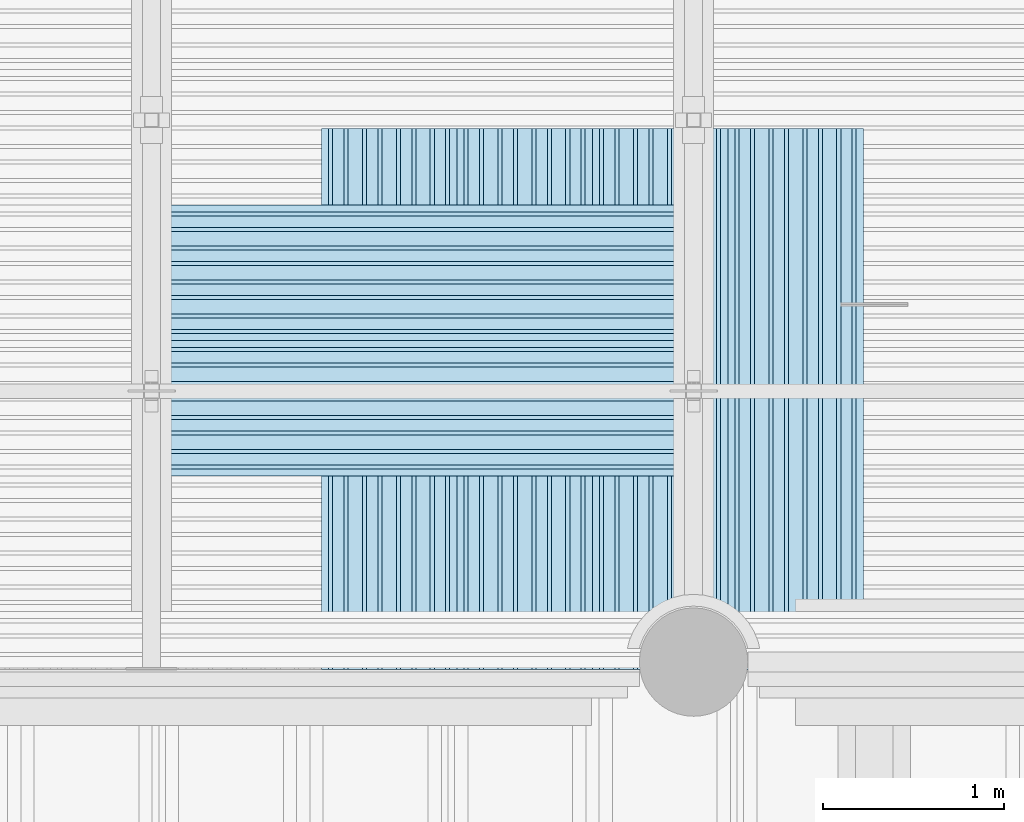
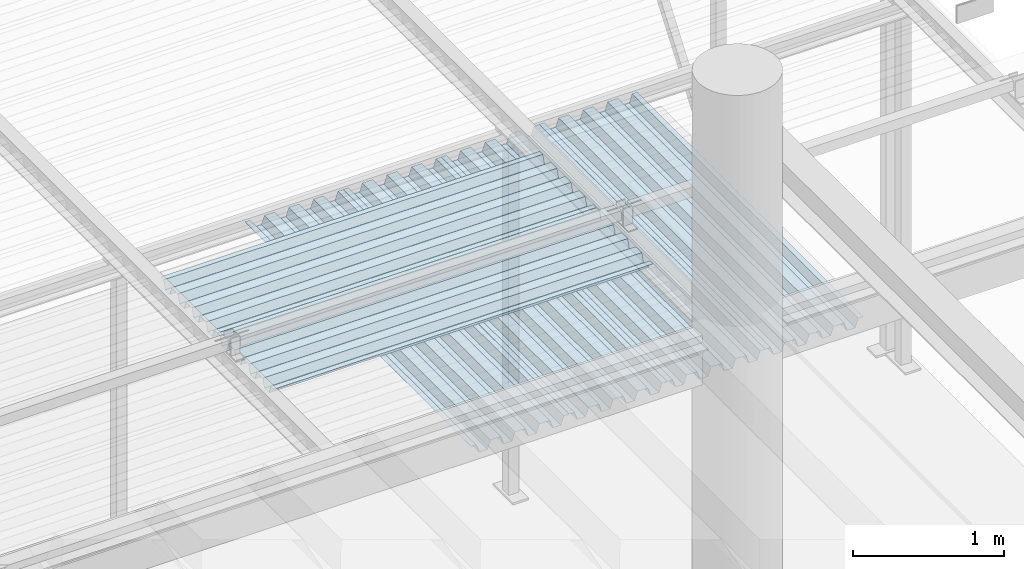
# One storey, part 71 of 98: 6 slabs.
"""IFC2X3 building model written with IfcOpenShell, lengths in millimetres."""

import ifcopenshell
import ifcopenshell.guid

model = None  # the IFC model being written
_history = None  # IfcOwnerHistory: only IFC2X3 demands one
_inside = {}  # id of a spatial element -> (the spatial element, [elements in it])
_under = {}  # id of a project, library or spatial element -> (it, [spatial elements below it])
_declared = {}  # id of a project -> (the project, [libraries it declares])
_typed = {}  # id of a type object -> (the type object, [elements of that type])
_made_of = {}  # id of a material, layer set ... -> (it, [elements and type objects made of it])


def new_model(schema):
    """Start an empty IFC model of exactly this schema.

    Asked for "IFC4X3", IfcOpenShell would pick the latest addendum, in which some entities
    have other attributes; the version numbers below select the first issue.
    IFC2X3 requires an IfcOwnerHistory on every rooted entity: one is made here for all.
    """
    global model, _history
    if schema == "IFC4X3":
        model = ifcopenshell.file(schema_version=(4, 3, 0, 0))
    else:
        model = ifcopenshell.file(schema=schema)
    _inside.clear()
    _under.clear()
    _declared.clear()
    _typed.clear()
    _made_of.clear()
    _history = None
    if model.schema == "IFC2X3":
        org = make("IfcOrganization", Name="unknown")
        user = make(
            "IfcPersonAndOrganization",
            ThePerson=make("IfcPerson", FamilyName="unknown"),
            TheOrganization=org,
        )
        app = make(
            "IfcApplication",
            ApplicationDeveloper=org,
            Version="unknown",
            ApplicationFullName="unknown",
            ApplicationIdentifier="unknown",
        )
        _history = make(
            "IfcOwnerHistory",
            OwningUser=user,
            OwningApplication=app,
            ChangeAction="ADDED",
            CreationDate=0,
        )
    return model


def make(cls, **values):
    """One entity of the class cls with the attributes given. An attribute that is None is left unset."""
    return model.create_entity(
        cls, **{name: value for name, value in values.items() if value is not None}
    )


def entity(cls, *values):
    """Any entity or typed value of the class cls, its attributes in the order of the schema. None: left unset."""
    e = model.create_entity(cls)
    for i, value in enumerate(values):
        if value is not None:
            e[i] = value
    return e


def rooted(cls, **values):
    """An entity with a GlobalId (a new one), such as an element, a storey or a relation."""
    return make(cls, GlobalId=ifcopenshell.guid.new(), OwnerHistory=_history, **values)


def si_unit(unit_type, name, prefix=None):
    """IfcSIUnit, for example si_unit("LENGTHUNIT", "METRE", prefix="MILLI")."""
    return make("IfcSIUnit", UnitType=unit_type, Prefix=prefix, Name=name)


def converted_unit(unit_type, name, factor, base, dimensions=None, offset=None):
    """IfcConversionBasedUnit, such as the inch: factor (a typed value) times the base unit."""
    return make(
        "IfcConversionBasedUnit"
        if offset is None
        else "IfcConversionBasedUnitWithOffset",
        ConversionOffset=offset,
        Dimensions=None
        if dimensions is None
        else entity("IfcDimensionalExponents", *dimensions),
        UnitType=unit_type,
        Name=name,
        ConversionFactor=make(
            "IfcMeasureWithUnit", ValueComponent=factor, UnitComponent=base
        ),
    )


def derived_unit(unit_type, elements):
    """IfcDerivedUnit: a product of units, each with its exponent."""
    return make(
        "IfcDerivedUnit",
        Elements=[
            make("IfcDerivedUnitElement", Unit=unit, Exponent=power)
            for unit, power in elements
        ],
        UnitType=unit_type,
    )


def assignment(units):
    """IfcUnitAssignment: the units of a project."""
    return None if units is None else make("IfcUnitAssignment", Units=units)


def point(xyz):
    """IfcCartesianPoint."""
    return None if xyz is None else make("IfcCartesianPoint", Coordinates=xyz)


def direction(xyz):
    """IfcDirection."""
    return None if xyz is None else make("IfcDirection", DirectionRatios=xyz)


def frame(location, z_axis=None, x_axis=None):
    """IfcAxis2Placement3D, a coordinate frame: its origin and axes. An axis left out is left unset."""
    return make(
        "IfcAxis2Placement3D",
        Location=point(location),
        Axis=direction(z_axis),
        RefDirection=direction(x_axis),
    )


def origin_with_axes():
    """The frame at (0, 0, 0) with the z axis (0, 0, 1) and the x axis (1, 0, 0) written out."""
    return frame((0.0, 0.0, 0.0), z_axis=(0.0, 0.0, 1.0), x_axis=(1.0, 0.0, 0.0))


def place(relative_to, where):
    """IfcLocalPlacement: puts the frame where relative to a parent placement (None: the world)."""
    return make(
        "IfcLocalPlacement", PlacementRelTo=relative_to, RelativePlacement=where
    )


def context(
    kind, dimensions, precision=None, world=None, true_north=None, identifier=None
):
    """IfcGeometricRepresentationContext, for example the 3D "Model" context."""
    return make(
        "IfcGeometricRepresentationContext",
        ContextIdentifier=identifier,
        ContextType=kind,
        CoordinateSpaceDimension=dimensions,
        Precision=precision,
        WorldCoordinateSystem=world,
        TrueNorth=true_north,
    )


def subcontext(parent, identifier, kind, view, scale=None):
    """IfcGeometricRepresentationSubContext, for example "Body" below "Model"."""
    return make(
        "IfcGeometricRepresentationSubContext",
        ContextIdentifier=identifier,
        ContextType=kind,
        ParentContext=parent,
        TargetScale=scale,
        TargetView=view,
    )


def project(units=None, contexts=None):
    """IfcProject with its units and contexts."""
    return rooted(
        "IfcProject",
        Name="project",
        RepresentationContexts=contexts,
        UnitsInContext=assignment(units),
    )


def spatial(cls, under=None, at=None, **own):
    """A site, building, storey or space (cls), placed at a placement, below another one or the project."""
    s = rooted(cls, ObjectPlacement=at, **own)
    if under is not None:
        _under.setdefault(under.id(), (under, []))[1].append(s)
    return s


def faces_of(points, faces, orient=None, outer=None):
    """IfcFace entities. A face is a list of loops; a loop is a list of indices into points, from 0.

    orient and outer hold one flag for each loop. By default every Orientation is true, the
    first loop of a face is its IfcFaceOuterBound and the others are IfcFaceBound.
    """
    made = []
    for i, loops in enumerate(faces):
        bounds = []
        for j, loop in enumerate(loops):
            is_outer = j == 0 if outer is None else outer[i][j]
            bounds.append(
                make(
                    "IfcFaceOuterBound" if is_outer else "IfcFaceBound",
                    Bound=make("IfcPolyLoop", Polygon=[points[k] for k in loop]),
                    Orientation=True if orient is None else orient[i][j],
                )
            )
        made.append(make("IfcFace", Bounds=bounds))
    return made


def faceted_brep(points, faces, orient=None, outer=None, voids=None):
    """IfcFacetedBrep: a solid bounded by flat faces; with voids (closed shells), ...WithVoids."""
    shared = [point(p) for p in points]
    hull = make("IfcClosedShell", CfsFaces=faces_of(shared, faces, orient, outer))
    if voids is None:
        return make("IfcFacetedBrep", Outer=hull)
    return make(
        "IfcFacetedBrepWithVoids",
        Outer=hull,
        Voids=[
            make(cls, CfsFaces=faces_of(shared, fs, o, b)) for cls, fs, o, b in voids
        ],
    )


def shape(context_of_items, identifier, shape_type, items):
    """IfcShapeRepresentation: the items that make up one representation, for example the "Body"."""
    return make(
        "IfcShapeRepresentation",
        ContextOfItems=context_of_items,
        RepresentationIdentifier=identifier,
        RepresentationType=shape_type,
        Items=items,
    )


def material(Name=None, Category=None):
    """IfcMaterial."""
    return make("IfcMaterial", Name=Name, Category=Category)


def made_of(thing, what):
    """Note that an element or type object is made of a material, layer set ...; save() writes the relation."""
    if what is not None:
        _made_of.setdefault(what.id(), (what, []))[1].append(thing)
    return thing


def type_object(cls, material=None, **own):
    """A type object (cls), such as IfcWallType, which elements share."""
    return made_of(rooted(cls, **own), material)


def element(
    cls,
    number,
    at=None,
    inside=None,
    cuts=None,
    type_object=None,
    material=None,
    context=None,
    identifier="Body",
    shape_type=None,
    held_by="IfcProductDefinitionShape",
    body=None,
    shapes=None,
    **own,
):
    """One element of the class cls, such as IfcWall. Its Tag is "e" and its number.

    at: its placement. inside: the storey or other place that contains it. cuts: it is an
    opening in that element (IfcRelVoidsElement). A single representation is given by context,
    identifier, shape_type and body (its items); several are given by shapes. held_by: the class
    of the entity that holds the representations. save() writes the other relations.
    """
    e = rooted(cls, Tag="e%d" % number, ObjectPlacement=at, **own)
    if body is not None:
        shapes = [shape(context, identifier, shape_type, body)]
    if shapes is not None:
        e.Representation = make(held_by, Representations=shapes)
    if inside is not None:
        _inside.setdefault(inside.id(), (inside, []))[1].append(e)
    if cuts is not None:
        rooted(
            "IfcRelVoidsElement", RelatingBuildingElement=cuts, RelatedOpeningElement=e
        )
    if type_object is not None:
        _typed.setdefault(type_object.id(), (type_object, []))[1].append(e)
    return made_of(e, material)


def aggregate(whole, parts):
    """IfcRelAggregates: a whole, such as a stair, and the parts it consists of."""
    return rooted("IfcRelAggregates", RelatingObject=whole, RelatedObjects=parts)


def save(model, path):
    """Write the relations noted so far, then the file.

    IfcRelAggregates (storeys below a building ...), IfcRelContainedInSpatialStructure (elements
    in a storey), IfcRelDefinesByType, IfcRelAssociatesMaterial and IfcRelDeclares: one each for
    every whole, place, type object, material and project.
    """
    for whole, parts in _under.values():
        aggregate(whole, parts)
    for where, things in _inside.values():
        rooted(
            "IfcRelContainedInSpatialStructure",
            RelatedElements=things,
            RelatingStructure=where,
        )
    for kind, things in _typed.values():
        rooted("IfcRelDefinesByType", RelatedObjects=things, RelatingType=kind)
    for what, things in _made_of.values():
        rooted("IfcRelAssociatesMaterial", RelatedObjects=things, RelatingMaterial=what)
    for by, libraries in _declared.values():
        rooted("IfcRelDeclares", RelatingContext=by, RelatedDefinitions=libraries)
    model.write(path)


model = new_model("IFC2X3")

# Units and contexts
model_context = context("Model", 3, precision=0.01, world=frame((0.0, 4.29681676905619e-09, 0.0)), true_north=direction((4.01073788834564e-13, 1.0)))
plan_context = context("Plan", 3, precision=0.01, world=frame((0.0, 4.29681676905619e-09, 0.0)), true_north=direction((4.01073788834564e-13, 1.0)))
body_context = subcontext(model_context, "Body", "Model", "MODEL_VIEW")
ifc_project = project(units=[converted_unit("PLANEANGLEUNIT", "DEGREE", entity("IfcPositiveLengthMeasure", 0.0174532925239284), si_unit("PLANEANGLEUNIT", "RADIAN"), dimensions=[0, 0, 0, 0, 0, 0, 0]), si_unit("AREAUNIT", "SQUARE_METRE"), si_unit("LENGTHUNIT", "METRE", prefix="MILLI"), si_unit("MASSUNIT", "GRAM", prefix="KILO"), si_unit("POWERUNIT", "WATT"), si_unit("PRESSUREUNIT", "PASCAL"), si_unit("FORCEUNIT", "NEWTON", prefix="KILO"), si_unit("ELECTRICCURRENTUNIT", "AMPERE"), si_unit("THERMODYNAMICTEMPERATUREUNIT", "DEGREE_CELSIUS"), si_unit("TIMEUNIT", "SECOND"), si_unit("VOLUMEUNIT", "CUBIC_METRE"), derived_unit("LINEARVELOCITYUNIT", [(si_unit("LENGTHUNIT", "METRE"), 1), (si_unit("TIMEUNIT", "SECOND"), -1)]), derived_unit("VOLUMETRICFLOWRATEUNIT", [(si_unit("VOLUMEUNIT", "CUBIC_METRE"), 1), (si_unit("TIMEUNIT", "SECOND"), -1)]), derived_unit("THERMALTRANSMITTANCEUNIT", [(si_unit("POWERUNIT", "WATT"), 1), (si_unit("THERMODYNAMICTEMPERATUREUNIT", "KELVIN"), -1), (si_unit("AREAUNIT", "SQUARE_METRE"), -1)])], contexts=[model_context, plan_context])

# Site, building, storey
site_placement = place(None, frame((0.0, -4.29681676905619e-09, 0.0), z_axis=(0.0, 0.0, 1.0), x_axis=(1.0, 0.0, 0.0)))
site = spatial("IfcSite", under=ifc_project, at=site_placement, Name="Gardermoen", CompositionType="ELEMENT")
building_placement = place(site_placement, frame((0.0, 4.29681676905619e-09, 0.0), z_axis=(0.0, 0.0, 1.0), x_axis=(1.0, 0.0, 0.0)))
building = spatial("IfcBuilding", under=site, at=building_placement, Name="TS", CompositionType="ELEMENT")
storey_placement = place(building_placement, origin_with_axes())
storey = spatial("IfcBuildingStorey", under=building, at=storey_placement, Name="D", CompositionType="ELEMENT", Elevation=0.0)

# Slabs
ifc_material = material(Name="STEEL/S355")
slab_type = type_object("IfcSlabType", Name="PLANJA70", PredefinedType="NOTDEFINED")
slab_1_placement = place(storey_placement, frame((528950.000000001, 415904.996695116, 206958.849718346), z_axis=(0.0, 0.0, 1.0), x_axis=(-0.999999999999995, -9.99999902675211e-08, 0.0)))
element("IfcSlab", 1, at=slab_1_placement, inside=storey, type_object=slab_type, material=ifc_material, Name="STÅLTAK", ObjectType="PLANJA70", PredefinedType="FLOOR", context=body_context, shape_type="Brep", body=[
    faceted_brep([(0.0, 375.0, 34.1500015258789), (0.0, 335.299987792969, 34.1500015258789), (2900.00079747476, 335.299987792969, 34.1500015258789), (2900.00079747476, 375.0, 34.1500015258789), (0.0, 313.010681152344, -32.1500015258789), (2900.00079747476, 313.010681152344, -32.1500015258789), (0.0, 249.489303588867, -32.1500015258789), (2900.00079747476, 249.489303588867, -32.1500015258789), (0.0, 227.199996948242, 34.1500015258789), (2900.00079747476, 227.199996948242, 34.1500015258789), (0.0, 147.800003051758, 34.1500015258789), (2900.00079747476, 147.800003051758, 34.1500015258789), (0.0, 125.280120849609, -33.1500015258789), (2900.00079747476, 125.280120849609, -33.1500015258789), (0.0, 62.2198791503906, -33.1500015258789), (2900.00079747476, 62.2198791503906, -33.1500015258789), (0.0, 39.7000007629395, 34.1500015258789), (2900.00079747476, 39.7000007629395, 34.1500015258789), (0.0, -39.7000007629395, 34.1500015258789), (2900.00079747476, -39.7000007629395, 34.1500015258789), (0.0, -62.2198791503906, -33.1500015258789), (2900.00079747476, -62.2198791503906, -33.1500015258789), (0.0, -125.280120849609, -33.1500015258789), (2900.00079747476, -125.280120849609, -33.1500015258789), (0.0, -147.800003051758, 34.1500015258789), (2900.00079747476, -147.800003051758, 34.1500015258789), (0.0, -227.199996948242, 34.1500015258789), (2900.00079747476, -227.199996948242, 34.1500015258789), (0.0, -249.719879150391, -33.1500015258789), (2900.00079747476, -249.719879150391, -33.1500015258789), (0.0, -312.781188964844, -33.1500015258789), (2900.00079747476, -312.781188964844, -33.1500015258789), (0.0, -335.070495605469, 33.1500015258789), (2900.00079747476, -335.070495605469, 33.1500015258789), (0.0, -375.0, 33.1500015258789), (2900.00079747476, -375.0, 33.1500015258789), (0.0, -375.0, 32.1500015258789), (2900.00079747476, -375.0, 32.1500015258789), (0.0, -335.789306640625, 32.1500015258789), (2900.00079747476, -335.789306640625, 32.1500015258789), (0.0, -313.5, -34.1500015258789), (2900.00079747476, -313.5, -34.1500015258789), (0.0, -249.0, -34.1500015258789), (2900.00079747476, -249.0, -34.1500015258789), (0.0, -226.480117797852, 33.1500015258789), (2900.00079747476, -226.480117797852, 33.1500015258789), (0.0, -148.519882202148, 33.1500015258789), (2900.00079747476, -148.519882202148, 33.1500015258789), (0.0, -126.0, -34.1500015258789), (2900.00079747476, -126.0, -34.1500015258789), (0.0, -61.5, -34.1500015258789), (2900.00079747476, -61.5, -34.1500015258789), (0.0, -38.9801177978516, 33.1500015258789), (2900.00079747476, -38.9801177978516, 33.1500015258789), (0.0, 38.9801177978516, 33.1500015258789), (2900.00079747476, 38.9801177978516, 33.1500015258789), (0.0, 61.5, -34.1500015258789), (2900.00079747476, 61.5, -34.1500015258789), (0.0, 126.0, -34.1500015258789), (2900.00079747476, 126.0, -34.1500015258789), (0.0, 148.519882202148, 33.1500015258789), (2900.00079747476, 148.519882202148, 33.1500015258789), (0.0, 226.481185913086, 33.1500015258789), (2900.00079747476, 226.481185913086, 33.1500015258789), (0.0, 248.770492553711, -33.1500015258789), (2900.00079747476, 248.770492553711, -33.1500015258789), (0.0, 313.7294921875, -33.1500015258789), (2900.00079747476, 313.7294921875, -33.1500015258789), (0.0, 336.018798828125, 33.1500015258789), (2900.00079747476, 336.018798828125, 33.1500015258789), (0.0, 375.0, 33.1500015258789), (2900.00079747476, 375.0, 33.1500015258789)], [[[0, 1, 2, 3]], [[1, 4, 5, 2]], [[4, 6, 7, 5]], [[6, 8, 9, 7]], [[8, 10, 11, 9]], [[10, 12, 13, 11]], [[12, 14, 15, 13]], [[14, 16, 17, 15]], [[16, 18, 19, 17]], [[18, 20, 21, 19]], [[22, 23, 21, 20]], [[22, 24, 25, 23]], [[24, 26, 27, 25]], [[26, 28, 29, 27]], [[28, 30, 31, 29]], [[30, 32, 33, 31]], [[32, 34, 35, 33]], [[34, 36, 37, 35]], [[36, 38, 39, 37]], [[38, 40, 41, 39]], [[40, 42, 43, 41]], [[42, 44, 45, 43]], [[44, 46, 47, 45]], [[46, 48, 49, 47]], [[48, 50, 51, 49]], [[50, 52, 53, 51]], [[52, 54, 55, 53]], [[54, 56, 57, 55]], [[56, 58, 59, 57]], [[58, 60, 61, 59]], [[60, 62, 63, 61]], [[62, 64, 65, 63]], [[64, 66, 67, 65]], [[66, 68, 69, 67]], [[68, 70, 71, 69]], [[70, 0, 3, 71]], [[5, 7, 9, 11, 13, 15, 17, 19, 21, 23, 25, 27, 29, 31, 33, 35, 37, 39, 41, 43, 45, 47, 49, 51, 53, 55, 57, 59, 61, 63, 65, 67, 69, 71, 3, 2]], [[70, 68, 66, 64, 62, 60, 58, 56, 54, 52, 50, 48, 46, 44, 42, 40, 38, 36, 34, 32, 30, 28, 26, 24, 22, 20, 18, 16, 14, 12, 10, 8, 6, 4, 1, 0]]]),
])
slab_2_placement = place(storey_placement, frame((528950.000000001, 416654.996695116, 206958.849718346), z_axis=(0.0, 0.0, 1.0), x_axis=(-0.999999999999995, -9.99999902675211e-08, 0.0)))
element("IfcSlab", 2, at=slab_2_placement, inside=storey, type_object=slab_type, material=ifc_material, Name="STÅLTAK", ObjectType="PLANJA70", PredefinedType="FLOOR", context=body_context, shape_type="Brep", body=[
    faceted_brep([(0.0, 375.0, 34.1500015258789), (0.0, 335.299987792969, 34.1500015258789), (2900.00079747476, 335.299987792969, 34.1500015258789), (2900.00079747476, 375.0, 34.1500015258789), (0.0, 313.010681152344, -32.1500015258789), (2900.00079747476, 313.010681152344, -32.1500015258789), (0.0, 249.489303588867, -32.1500015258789), (2900.00079747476, 249.489303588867, -32.1500015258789), (0.0, 227.199996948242, 34.1500015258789), (2900.00079747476, 227.199996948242, 34.1500015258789), (0.0, 147.800003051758, 34.1500015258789), (2900.00079747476, 147.800003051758, 34.1500015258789), (0.0, 125.280120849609, -33.1500015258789), (2900.00079747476, 125.280120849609, -33.1500015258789), (0.0, 62.2198791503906, -33.1500015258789), (2900.00079747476, 62.2198791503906, -33.1500015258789), (0.0, 39.7000007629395, 34.1500015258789), (2900.00079747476, 39.7000007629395, 34.1500015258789), (0.0, -39.7000007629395, 34.1500015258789), (2900.00079747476, -39.7000007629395, 34.1500015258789), (0.0, -62.2198791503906, -33.1500015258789), (2900.00079747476, -62.2198791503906, -33.1500015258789), (0.0, -125.280120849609, -33.1500015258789), (2900.00079747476, -125.280120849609, -33.1500015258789), (0.0, -147.800003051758, 34.1500015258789), (2900.00079747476, -147.800003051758, 34.1500015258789), (0.0, -227.199996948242, 34.1500015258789), (2900.00079747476, -227.199996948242, 34.1500015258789), (0.0, -249.719879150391, -33.1500015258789), (2900.00079747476, -249.719879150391, -33.1500015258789), (0.0, -312.781188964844, -33.1500015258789), (2900.00079747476, -312.781188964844, -33.1500015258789), (0.0, -335.070495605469, 33.1500015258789), (2900.00079747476, -335.070495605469, 33.1500015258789), (0.0, -375.0, 33.1500015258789), (2900.00079747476, -375.0, 33.1500015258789), (0.0, -375.0, 32.1500015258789), (2900.00079747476, -375.0, 32.1500015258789), (0.0, -335.789306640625, 32.1500015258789), (2900.00079747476, -335.789306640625, 32.1500015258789), (0.0, -313.5, -34.1500015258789), (2900.00079747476, -313.5, -34.1500015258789), (0.0, -249.0, -34.1500015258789), (2900.00079747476, -249.0, -34.1500015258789), (0.0, -226.480117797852, 33.1500015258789), (2900.00079747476, -226.480117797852, 33.1500015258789), (0.0, -148.519882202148, 33.1500015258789), (2900.00079747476, -148.519882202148, 33.1500015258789), (0.0, -126.0, -34.1500015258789), (2900.00079747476, -126.0, -34.1500015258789), (0.0, -61.5, -34.1500015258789), (2900.00079747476, -61.5, -34.1500015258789), (0.0, -38.9801177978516, 33.1500015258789), (2900.00079747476, -38.9801177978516, 33.1500015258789), (0.0, 38.9801177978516, 33.1500015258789), (2900.00079747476, 38.9801177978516, 33.1500015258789), (0.0, 61.5, -34.1500015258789), (2900.00079747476, 61.5, -34.1500015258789), (0.0, 126.0, -34.1500015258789), (2900.00079747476, 126.0, -34.1500015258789), (0.0, 148.519882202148, 33.1500015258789), (2900.00079747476, 148.519882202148, 33.1500015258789), (0.0, 226.481185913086, 33.1500015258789), (2900.00079747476, 226.481185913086, 33.1500015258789), (0.0, 248.770492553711, -33.1500015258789), (2900.00079747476, 248.770492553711, -33.1500015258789), (0.0, 313.7294921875, -33.1500015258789), (2900.00079747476, 313.7294921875, -33.1500015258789), (0.0, 336.018798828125, 33.1500015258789), (2900.00079747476, 336.018798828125, 33.1500015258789), (0.0, 375.0, 33.1500015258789), (2900.00079747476, 375.0, 33.1500015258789)], [[[0, 1, 2, 3]], [[1, 4, 5, 2]], [[4, 6, 7, 5]], [[6, 8, 9, 7]], [[8, 10, 11, 9]], [[10, 12, 13, 11]], [[12, 14, 15, 13]], [[14, 16, 17, 15]], [[16, 18, 19, 17]], [[18, 20, 21, 19]], [[22, 23, 21, 20]], [[22, 24, 25, 23]], [[24, 26, 27, 25]], [[26, 28, 29, 27]], [[28, 30, 31, 29]], [[30, 32, 33, 31]], [[32, 34, 35, 33]], [[34, 36, 37, 35]], [[36, 38, 39, 37]], [[38, 40, 41, 39]], [[40, 42, 43, 41]], [[42, 44, 45, 43]], [[44, 46, 47, 45]], [[46, 48, 49, 47]], [[48, 50, 51, 49]], [[50, 52, 53, 51]], [[52, 54, 55, 53]], [[54, 56, 57, 55]], [[56, 58, 59, 57]], [[58, 60, 61, 59]], [[60, 62, 63, 61]], [[62, 64, 65, 63]], [[64, 66, 67, 65]], [[66, 68, 69, 67]], [[68, 70, 71, 69]], [[70, 0, 3, 71]], [[5, 7, 9, 11, 13, 15, 17, 19, 21, 23, 25, 27, 29, 31, 33, 35, 37, 39, 41, 43, 45, 47, 49, 51, 53, 55, 57, 59, 61, 63, 65, 67, 69, 71, 3, 2]], [[70, 68, 66, 64, 62, 60, 58, 56, 54, 52, 50, 48, 46, 44, 42, 40, 38, 36, 34, 32, 30, 28, 26, 24, 22, 20, 18, 16, 14, 12, 10, 8, 6, 4, 1, 0]]]),
])
slab_3_placement = place(storey_placement, frame((527314.996695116, 414458.999999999, 206834.129718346), z_axis=(0.0, 0.0, 1.0), x_axis=(0.0, 1.0, 0.0)))
element("IfcSlab", 3, at=slab_3_placement, inside=storey, type_object=slab_type, material=ifc_material, Name="STÅLTAK", ObjectType="PLANJA70", PredefinedType="FLOOR", context=body_context, shape_type="Brep", body=[
    faceted_brep([(0.0, 375.0, 34.1500015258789), (0.0, 335.299987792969, 34.1500015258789), (2995.66049790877, 335.299987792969, 34.1500015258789), (2995.66049790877, 375.0, 34.1500015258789), (0.0, 313.010681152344, -32.1500015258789), (2995.66049790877, 313.010681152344, -32.1500015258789), (0.0, 249.489303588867, -32.1500015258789), (2995.66049790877, 249.489303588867, -32.1500015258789), (0.0, 227.199996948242, 34.1500015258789), (2995.66049790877, 227.199996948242, 34.1500015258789), (0.0, 147.800003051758, 34.1500015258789), (2995.66049790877, 147.800003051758, 34.1500015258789), (0.0, 125.280120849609, -33.1500015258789), (2995.66049790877, 125.280120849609, -33.1500015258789), (0.0, 62.2198791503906, -33.1500015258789), (2995.66049790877, 62.2198791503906, -33.1500015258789), (0.0, 39.7000007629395, 34.1500015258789), (2995.66049790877, 39.7000007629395, 34.1500015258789), (0.0, -39.7000007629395, 34.1500015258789), (2995.66049790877, -39.7000007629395, 34.1500015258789), (0.0, -62.2198791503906, -33.1500015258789), (2995.66049790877, -62.2198791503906, -33.1500015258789), (0.0, -125.280120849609, -33.1500015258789), (2995.66049790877, -125.280120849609, -33.1500015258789), (0.0, -147.800003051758, 34.1500015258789), (2995.66049790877, -147.800003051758, 34.1500015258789), (0.0, -227.199996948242, 34.1500015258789), (2995.66049790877, -227.199996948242, 34.1500015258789), (0.0, -249.719879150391, -33.1500015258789), (2995.66049790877, -249.719879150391, -33.1500015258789), (0.0, -312.781188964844, -33.1500015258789), (2995.66049790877, -312.781188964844, -33.1500015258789), (0.0, -335.070495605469, 33.1500015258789), (2995.66049790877, -335.070495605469, 33.1500015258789), (0.0, -375.0, 33.1500015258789), (2995.66049790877, -375.0, 33.1500015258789), (0.0, -375.0, 32.1500015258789), (2995.66049790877, -375.0, 32.1500015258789), (0.0, -335.789306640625, 32.1500015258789), (2995.66049790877, -335.789306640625, 32.1500015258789), (0.0, -313.5, -34.1500015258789), (2995.66049790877, -313.5, -34.1500015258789), (0.0, -249.0, -34.1500015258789), (2995.66049790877, -249.0, -34.1500015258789), (0.0, -226.480117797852, 33.1500015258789), (2995.66049790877, -226.480117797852, 33.1500015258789), (0.0, -148.519882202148, 33.1500015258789), (2995.66049790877, -148.519882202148, 33.1500015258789), (0.0, -126.0, -34.1500015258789), (2995.66049790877, -126.0, -34.1500015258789), (0.0, -61.5, -34.1500015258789), (2995.66049790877, -61.5, -34.1500015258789), (0.0, -38.9801177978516, 33.1500015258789), (2995.66049790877, -38.9801177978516, 33.1500015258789), (0.0, 38.9801177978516, 33.1500015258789), (2995.66049790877, 38.9801177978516, 33.1500015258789), (0.0, 61.5, -34.1500015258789), (2995.66049790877, 61.5, -34.1500015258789), (0.0, 126.0, -34.1500015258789), (2995.66049790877, 126.0, -34.1500015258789), (0.0, 148.519882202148, 33.1500015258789), (2995.66049790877, 148.519882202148, 33.1500015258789), (0.0, 226.481185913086, 33.1500015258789), (2995.66049790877, 226.481185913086, 33.1500015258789), (0.0, 248.770492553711, -33.1500015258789), (2995.66049790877, 248.770492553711, -33.1500015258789), (0.0, 313.7294921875, -33.1500015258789), (2995.66049790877, 313.7294921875, -33.1500015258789), (0.0, 336.018798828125, 33.1500015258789), (2995.66049790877, 336.018798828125, 33.1500015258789), (0.0, 375.0, 33.1500015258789), (2995.66049790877, 375.0, 33.1500015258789)], [[[0, 1, 2, 3]], [[1, 4, 5, 2]], [[4, 6, 7, 5]], [[6, 8, 9, 7]], [[8, 10, 11, 9]], [[10, 12, 13, 11]], [[12, 14, 15, 13]], [[14, 16, 17, 15]], [[16, 18, 19, 17]], [[18, 20, 21, 19]], [[20, 22, 23, 21]], [[22, 24, 25, 23]], [[24, 26, 27, 25]], [[26, 28, 29, 27]], [[28, 30, 31, 29]], [[30, 32, 33, 31]], [[32, 34, 35, 33]], [[34, 36, 37, 35]], [[36, 38, 39, 37]], [[38, 40, 41, 39]], [[40, 42, 43, 41]], [[42, 44, 45, 43]], [[44, 46, 47, 45]], [[46, 48, 49, 47]], [[48, 50, 51, 49]], [[50, 52, 53, 51]], [[52, 54, 55, 53]], [[54, 56, 57, 55]], [[56, 58, 59, 57]], [[58, 60, 61, 59]], [[60, 62, 63, 61]], [[62, 64, 65, 63]], [[64, 66, 67, 65]], [[66, 68, 69, 67]], [[68, 70, 71, 69]], [[70, 0, 3, 71]], [[5, 7, 9, 11, 13, 15, 17, 19, 21, 23, 25, 27, 29, 31, 33, 35, 37, 39, 41, 43, 45, 47, 49, 51, 53, 55, 57, 59, 61, 63, 65, 67, 69, 71, 3, 2]], [[70, 68, 66, 64, 62, 60, 58, 56, 54, 52, 50, 48, 46, 44, 42, 40, 38, 36, 34, 32, 30, 28, 26, 24, 22, 20, 18, 16, 14, 12, 10, 8, 6, 4, 1, 0]]]),
])
slab_4_placement = place(storey_placement, frame((528064.996695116, 414458.999999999, 206834.129718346), z_axis=(0.0, 0.0, 1.0), x_axis=(0.0, 1.0, 0.0)))
element("IfcSlab", 4, at=slab_4_placement, inside=storey, type_object=slab_type, material=ifc_material, Name="STÅLTAK", ObjectType="PLANJA70", PredefinedType="FLOOR", context=body_context, shape_type="Brep", body=[
    faceted_brep([(0.0, 375.0, 34.1500015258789), (0.0, 335.299987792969, 34.1500015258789), (2995.66049790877, 335.299987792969, 34.1500015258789), (2995.66049790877, 375.0, 34.1500015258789), (0.0, 313.010681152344, -32.1500015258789), (2995.66049790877, 313.010681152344, -32.1500015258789), (0.0, 249.489303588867, -32.1500015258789), (2995.66049790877, 249.489303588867, -32.1500015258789), (0.0, 227.199996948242, 34.1500015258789), (2995.66049790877, 227.199996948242, 34.1500015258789), (0.0, 147.800003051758, 34.1500015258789), (2995.66049790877, 147.800003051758, 34.1500015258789), (0.0, 125.280120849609, -33.1500015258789), (2995.66049790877, 125.280120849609, -33.1500015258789), (0.0, 62.2198791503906, -33.1500015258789), (2995.66049790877, 62.2198791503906, -33.1500015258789), (0.0, 39.7000007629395, 34.1500015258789), (2995.66049790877, 39.7000007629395, 34.1500015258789), (0.0, -39.7000007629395, 34.1500015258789), (2995.66049790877, -39.7000007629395, 34.1500015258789), (0.0, -62.2198791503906, -33.1500015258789), (2995.66049790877, -62.2198791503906, -33.1500015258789), (0.0, -125.280120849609, -33.1500015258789), (2995.66049790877, -125.280120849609, -33.1500015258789), (0.0, -147.800003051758, 34.1500015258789), (2995.66049790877, -147.800003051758, 34.1500015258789), (0.0, -227.199996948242, 34.1500015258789), (2995.66049790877, -227.199996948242, 34.1500015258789), (0.0, -249.719879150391, -33.1500015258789), (2995.66049790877, -249.719879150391, -33.1500015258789), (0.0, -312.781188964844, -33.1500015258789), (2995.66049790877, -312.781188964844, -33.1500015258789), (0.0, -335.070495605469, 33.1500015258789), (2995.66049790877, -335.070495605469, 33.1500015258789), (0.0, -375.0, 33.1500015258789), (2995.66049790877, -375.0, 33.1500015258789), (0.0, -375.0, 32.1500015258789), (2995.66049790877, -375.0, 32.1500015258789), (0.0, -335.789306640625, 32.1500015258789), (2995.66049790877, -335.789306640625, 32.1500015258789), (0.0, -313.5, -34.1500015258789), (2995.66049790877, -313.5, -34.1500015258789), (0.0, -249.0, -34.1500015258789), (2995.66049790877, -249.0, -34.1500015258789), (0.0, -226.480117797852, 33.1500015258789), (2995.66049790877, -226.480117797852, 33.1500015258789), (0.0, -148.519882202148, 33.1500015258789), (2995.66049790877, -148.519882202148, 33.1500015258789), (0.0, -126.0, -34.1500015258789), (2995.66049790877, -126.0, -34.1500015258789), (0.0, -61.5, -34.1500015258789), (2995.66049790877, -61.5, -34.1500015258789), (0.0, -38.9801177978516, 33.1500015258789), (2995.66049790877, -38.9801177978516, 33.1500015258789), (0.0, 38.9801177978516, 33.1500015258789), (2995.66049790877, 38.9801177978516, 33.1500015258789), (0.0, 61.5, -34.1500015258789), (2995.66049790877, 61.5, -34.1500015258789), (0.0, 126.0, -34.1500015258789), (2995.66049790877, 126.0, -34.1500015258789), (0.0, 148.519882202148, 33.1500015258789), (2995.66049790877, 148.519882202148, 33.1500015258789), (0.0, 226.481185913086, 33.1500015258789), (2995.66049790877, 226.481185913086, 33.1500015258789), (0.0, 248.770492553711, -33.1500015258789), (2995.66049790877, 248.770492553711, -33.1500015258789), (0.0, 313.7294921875, -33.1500015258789), (2995.66049790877, 313.7294921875, -33.1500015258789), (0.0, 336.018798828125, 33.1500015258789), (2995.66049790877, 336.018798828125, 33.1500015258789), (0.0, 375.0, 33.1500015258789), (2995.66049790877, 375.0, 33.1500015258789)], [[[0, 1, 2, 3]], [[1, 4, 5, 2]], [[4, 6, 7, 5]], [[6, 8, 9, 7]], [[8, 10, 11, 9]], [[10, 12, 13, 11]], [[12, 14, 15, 13]], [[14, 16, 17, 15]], [[16, 18, 19, 17]], [[18, 20, 21, 19]], [[20, 22, 23, 21]], [[22, 24, 25, 23]], [[24, 26, 27, 25]], [[26, 28, 29, 27]], [[28, 30, 31, 29]], [[30, 32, 33, 31]], [[32, 34, 35, 33]], [[34, 36, 37, 35]], [[36, 38, 39, 37]], [[38, 40, 41, 39]], [[40, 42, 43, 41]], [[42, 44, 45, 43]], [[44, 46, 47, 45]], [[46, 48, 49, 47]], [[48, 50, 51, 49]], [[50, 52, 53, 51]], [[52, 54, 55, 53]], [[54, 56, 57, 55]], [[56, 58, 59, 57]], [[58, 60, 61, 59]], [[60, 62, 63, 61]], [[62, 64, 65, 63]], [[64, 66, 67, 65]], [[66, 68, 69, 67]], [[68, 70, 71, 69]], [[70, 0, 3, 71]], [[5, 7, 9, 11, 13, 15, 17, 19, 21, 23, 25, 27, 29, 31, 33, 35, 37, 39, 41, 43, 45, 47, 49, 51, 53, 55, 57, 59, 61, 63, 65, 67, 69, 71, 3, 2]], [[70, 68, 66, 64, 62, 60, 58, 56, 54, 52, 50, 48, 46, 44, 42, 40, 38, 36, 34, 32, 30, 28, 26, 24, 22, 20, 18, 16, 14, 12, 10, 8, 6, 4, 1, 0]]]),
])
slab_5_placement = place(storey_placement, frame((528814.996695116, 414458.999999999, 206834.129718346), z_axis=(0.0, 0.0, 1.0), x_axis=(0.0, 1.0, 0.0)))
element("IfcSlab", 5, at=slab_5_placement, inside=storey, type_object=slab_type, material=ifc_material, Name="STÅLTAK", ObjectType="PLANJA70", PredefinedType="FLOOR", context=body_context, shape_type="Brep", body=[
    faceted_brep([(0.0, 375.0, 34.1500015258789), (0.0, 335.299987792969, 34.1500015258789), (2995.66049790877, 335.299987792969, 34.1500015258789), (2995.66049790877, 375.0, 34.1500015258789), (0.0, 313.010681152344, -32.1500015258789), (2995.66049790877, 313.010681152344, -32.1500015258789), (0.0, 249.489303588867, -32.1500015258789), (2995.66049790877, 249.489303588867, -32.1500015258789), (0.0, 227.199996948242, 34.1500015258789), (2995.66049790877, 227.199996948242, 34.1500015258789), (0.0, 147.800003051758, 34.1500015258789), (2995.66049790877, 147.800003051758, 34.1500015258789), (0.0, 125.280120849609, -33.1500015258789), (2995.66049790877, 125.280120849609, -33.1500015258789), (0.0, 62.2198791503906, -33.1500015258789), (2995.66049790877, 62.2198791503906, -33.1500015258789), (0.0, 39.7000007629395, 34.1500015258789), (2995.66049790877, 39.7000007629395, 34.1500015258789), (0.0, -39.7000007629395, 34.1500015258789), (2995.66049790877, -39.7000007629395, 34.1500015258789), (0.0, -62.2198791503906, -33.1500015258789), (2995.66049790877, -62.2198791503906, -33.1500015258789), (0.0, -125.280120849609, -33.1500015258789), (2995.66049790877, -125.280120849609, -33.1500015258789), (0.0, -147.800003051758, 34.1500015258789), (2995.66049790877, -147.800003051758, 34.1500015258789), (0.0, -227.199996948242, 34.1500015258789), (2995.66049790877, -227.199996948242, 34.1500015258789), (0.0, -249.719879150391, -33.1500015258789), (2995.66049790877, -249.719879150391, -33.1500015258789), (0.0, -312.781188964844, -33.1500015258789), (2995.66049790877, -312.781188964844, -33.1500015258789), (0.0, -335.070495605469, 33.1500015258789), (2995.66049790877, -335.070495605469, 33.1500015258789), (0.0, -375.0, 33.1500015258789), (2995.66049790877, -375.0, 33.1500015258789), (0.0, -375.0, 32.1500015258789), (2995.66049790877, -375.0, 32.1500015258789), (0.0, -335.789306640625, 32.1500015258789), (2995.66049790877, -335.789306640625, 32.1500015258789), (0.0, -313.5, -34.1500015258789), (2995.66049790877, -313.5, -34.1500015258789), (0.0, -249.0, -34.1500015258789), (2995.66049790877, -249.0, -34.1500015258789), (0.0, -226.480117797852, 33.1500015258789), (2995.66049790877, -226.480117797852, 33.1500015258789), (0.0, -148.519882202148, 33.1500015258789), (2995.66049790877, -148.519882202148, 33.1500015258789), (0.0, -126.0, -34.1500015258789), (2995.66049790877, -126.0, -34.1500015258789), (0.0, -61.5, -34.1500015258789), (2995.66049790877, -61.5, -34.1500015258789), (0.0, -38.9801177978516, 33.1500015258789), (2995.66049790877, -38.9801177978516, 33.1500015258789), (0.0, 38.9801177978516, 33.1500015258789), (2995.66049790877, 38.9801177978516, 33.1500015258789), (0.0, 61.5, -34.1500015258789), (2995.66049790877, 61.5, -34.1500015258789), (0.0, 126.0, -34.1500015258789), (2995.66049790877, 126.0, -34.1500015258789), (0.0, 148.519882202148, 33.1500015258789), (2995.66049790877, 148.519882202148, 33.1500015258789), (0.0, 226.481185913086, 33.1500015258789), (2995.66049790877, 226.481185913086, 33.1500015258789), (0.0, 248.770492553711, -33.1500015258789), (2995.66049790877, 248.770492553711, -33.1500015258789), (0.0, 313.7294921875, -33.1500015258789), (2995.66049790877, 313.7294921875, -33.1500015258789), (0.0, 336.018798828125, 33.1500015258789), (2995.66049790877, 336.018798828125, 33.1500015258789), (0.0, 375.0, 33.1500015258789), (2995.66049790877, 375.0, 33.1500015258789)], [[[0, 1, 2, 3]], [[1, 4, 5, 2]], [[4, 6, 7, 5]], [[6, 8, 9, 7]], [[8, 10, 11, 9]], [[10, 12, 13, 11]], [[12, 14, 15, 13]], [[14, 16, 17, 15]], [[16, 18, 19, 17]], [[18, 20, 21, 19]], [[20, 22, 23, 21]], [[22, 24, 25, 23]], [[24, 26, 27, 25]], [[26, 28, 29, 27]], [[28, 30, 31, 29]], [[30, 32, 33, 31]], [[32, 34, 35, 33]], [[34, 36, 37, 35]], [[36, 38, 39, 37]], [[38, 40, 41, 39]], [[40, 42, 43, 41]], [[42, 44, 45, 43]], [[44, 46, 47, 45]], [[46, 48, 49, 47]], [[48, 50, 51, 49]], [[50, 52, 53, 51]], [[52, 54, 55, 53]], [[54, 56, 57, 55]], [[56, 58, 59, 57]], [[58, 60, 61, 59]], [[60, 62, 63, 61]], [[62, 64, 65, 63]], [[64, 66, 67, 65]], [[66, 68, 69, 67]], [[68, 70, 71, 69]], [[70, 0, 3, 71]], [[5, 7, 9, 11, 13, 15, 17, 19, 21, 23, 25, 27, 29, 31, 33, 35, 37, 39, 41, 43, 45, 47, 49, 51, 53, 55, 57, 59, 61, 63, 65, 67, 69, 71, 3, 2]], [[70, 68, 66, 64, 62, 60, 58, 56, 54, 52, 50, 48, 46, 44, 42, 40, 38, 36, 34, 32, 30, 28, 26, 24, 22, 20, 18, 16, 14, 12, 10, 8, 6, 4, 1, 0]]]),
])
slab_6_placement = place(storey_placement, frame((529564.996695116, 414458.999999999, 206834.129718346), z_axis=(0.0, 0.0, 1.0), x_axis=(0.0, 1.0, 0.0)))
element("IfcSlab", 6, at=slab_6_placement, inside=storey, type_object=slab_type, material=ifc_material, Name="STÅLTAK", ObjectType="PLANJA70", PredefinedType="FLOOR", context=body_context, shape_type="Brep", body=[
    faceted_brep([(0.0, 375.0, 34.1500015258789), (0.0, 335.299987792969, 34.1500015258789), (2995.66049790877, 335.299987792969, 34.1500015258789), (2995.66049790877, 375.0, 34.1500015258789), (0.0, 313.010681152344, -32.1500015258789), (2995.66049790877, 313.010681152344, -32.1500015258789), (0.0, 249.489303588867, -32.1500015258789), (2995.66049790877, 249.489303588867, -32.1500015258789), (0.0, 227.199996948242, 34.1500015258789), (2995.66049790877, 227.199996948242, 34.1500015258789), (0.0, 147.800003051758, 34.1500015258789), (2995.66049790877, 147.800003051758, 34.1500015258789), (0.0, 125.280120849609, -33.1500015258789), (2995.66049790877, 125.280120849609, -33.1500015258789), (0.0, 62.2198791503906, -33.1500015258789), (2995.66049790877, 62.2198791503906, -33.1500015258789), (0.0, 39.7000007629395, 34.1500015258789), (2995.66049790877, 39.7000007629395, 34.1500015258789), (0.0, -39.7000007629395, 34.1500015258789), (2995.66049790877, -39.7000007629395, 34.1500015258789), (0.0, -62.2198791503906, -33.1500015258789), (2995.66049790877, -62.2198791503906, -33.1500015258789), (0.0, -125.280120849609, -33.1500015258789), (2995.66049790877, -125.280120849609, -33.1500015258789), (0.0, -147.800003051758, 34.1500015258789), (2995.66049790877, -147.800003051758, 34.1500015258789), (0.0, -227.199996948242, 34.1500015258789), (2995.66049790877, -227.199996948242, 34.1500015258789), (0.0, -249.719879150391, -33.1500015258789), (2995.66049790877, -249.719879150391, -33.1500015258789), (0.0, -312.781188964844, -33.1500015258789), (2995.66049790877, -312.781188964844, -33.1500015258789), (0.0, -335.070495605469, 33.1500015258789), (2995.66049790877, -335.070495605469, 33.1500015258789), (0.0, -375.0, 33.1500015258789), (2995.66049790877, -375.0, 33.1500015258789), (0.0, -375.0, 32.1500015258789), (2995.66049790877, -375.0, 32.1500015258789), (0.0, -335.789306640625, 32.1500015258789), (2995.66049790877, -335.789306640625, 32.1500015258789), (0.0, -313.5, -34.1500015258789), (2995.66049790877, -313.5, -34.1500015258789), (0.0, -249.0, -34.1500015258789), (2995.66049790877, -249.0, -34.1500015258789), (0.0, -226.480117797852, 33.1500015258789), (2995.66049790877, -226.480117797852, 33.1500015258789), (0.0, -148.519882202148, 33.1500015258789), (2995.66049790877, -148.519882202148, 33.1500015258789), (0.0, -126.0, -34.1500015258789), (2995.66049790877, -126.0, -34.1500015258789), (0.0, -61.5, -34.1500015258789), (2995.66049790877, -61.5, -34.1500015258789), (0.0, -38.9801177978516, 33.1500015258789), (2995.66049790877, -38.9801177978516, 33.1500015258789), (0.0, 38.9801177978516, 33.1500015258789), (2995.66049790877, 38.9801177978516, 33.1500015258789), (0.0, 61.5, -34.1500015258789), (2995.66049790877, 61.5, -34.1500015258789), (0.0, 126.0, -34.1500015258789), (2995.66049790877, 126.0, -34.1500015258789), (0.0, 148.519882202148, 33.1500015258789), (2995.66049790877, 148.519882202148, 33.1500015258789), (0.0, 226.481185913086, 33.1500015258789), (2995.66049790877, 226.481185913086, 33.1500015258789), (0.0, 248.770492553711, -33.1500015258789), (2995.66049790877, 248.770492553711, -33.1500015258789), (0.0, 313.7294921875, -33.1500015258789), (2995.66049790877, 313.7294921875, -33.1500015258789), (0.0, 336.018798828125, 33.1500015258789), (2995.66049790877, 336.018798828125, 33.1500015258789), (0.0, 375.0, 33.1500015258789), (2995.66049790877, 375.0, 33.1500015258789)], [[[0, 1, 2, 3]], [[1, 4, 5, 2]], [[4, 6, 7, 5]], [[6, 8, 9, 7]], [[8, 10, 11, 9]], [[10, 12, 13, 11]], [[12, 14, 15, 13]], [[14, 16, 17, 15]], [[16, 18, 19, 17]], [[18, 20, 21, 19]], [[20, 22, 23, 21]], [[22, 24, 25, 23]], [[24, 26, 27, 25]], [[26, 28, 29, 27]], [[28, 30, 31, 29]], [[30, 32, 33, 31]], [[32, 34, 35, 33]], [[34, 36, 37, 35]], [[36, 38, 39, 37]], [[38, 40, 41, 39]], [[40, 42, 43, 41]], [[42, 44, 45, 43]], [[44, 46, 47, 45]], [[46, 48, 49, 47]], [[48, 50, 51, 49]], [[50, 52, 53, 51]], [[52, 54, 55, 53]], [[54, 56, 57, 55]], [[56, 58, 59, 57]], [[58, 60, 61, 59]], [[60, 62, 63, 61]], [[62, 64, 65, 63]], [[64, 66, 67, 65]], [[66, 68, 69, 67]], [[68, 70, 71, 69]], [[70, 0, 3, 71]], [[5, 7, 9, 11, 13, 15, 17, 19, 21, 23, 25, 27, 29, 31, 33, 35, 37, 39, 41, 43, 45, 47, 49, 51, 53, 55, 57, 59, 61, 63, 65, 67, 69, 71, 3, 2]], [[70, 68, 66, 64, 62, 60, 58, 56, 54, 52, 50, 48, 46, 44, 42, 40, 38, 36, 34, 32, 30, 28, 26, 24, 22, 20, 18, 16, 14, 12, 10, 8, 6, 4, 1, 0]]]),
])

save(model, "model.ifc")
